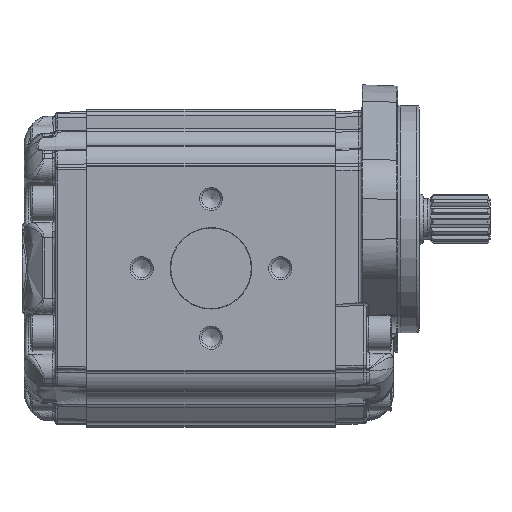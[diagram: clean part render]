
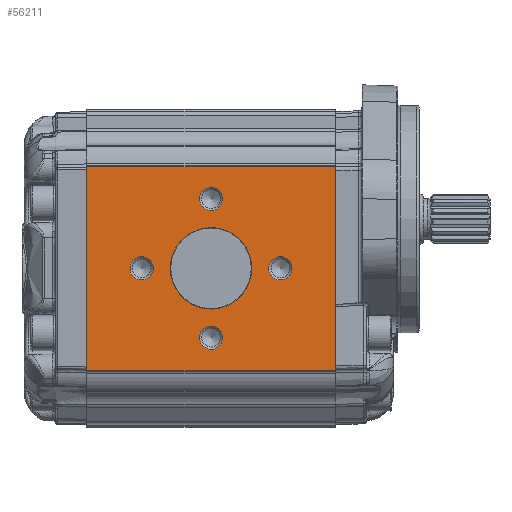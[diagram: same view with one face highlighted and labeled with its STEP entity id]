
A CAD part, left-side view. The second image highlights one B-rep face of the part: STEP entity #56211.
In plain terms, the highlighted planar face has unit normal (-1, 0, 0).
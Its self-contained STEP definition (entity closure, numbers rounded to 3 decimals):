
#6450=LINE('',#106740,#8084);
#6461=LINE('',#106824,#8095);
#6507=LINE('',#106990,#8141);
#6508=LINE('',#106991,#8142);
#8084=VECTOR('',#62822,1000.);
#8095=VECTOR('',#62897,1000.);
#8141=VECTOR('',#63075,1000.);
#8142=VECTOR('',#63076,1000.);
#14111=ORIENTED_EDGE('',*,*,#23730,.T.);
#14112=ORIENTED_EDGE('',*,*,#23731,.T.);
#14113=ORIENTED_EDGE('',*,*,#23732,.T.);
#14114=ORIENTED_EDGE('',*,*,#23733,.T.);
#14115=ORIENTED_EDGE('',*,*,#23734,.T.);
#14116=ORIENTED_EDGE('',*,*,#23605,.F.);
#14117=ORIENTED_EDGE('',*,*,#23735,.T.);
#14118=ORIENTED_EDGE('',*,*,#23647,.F.);
#14119=ORIENTED_EDGE('',*,*,#23736,.T.);
#23605=EDGE_CURVE('',#28740,#28741,#6450,.T.);
#23647=EDGE_CURVE('',#28782,#28783,#6461,.T.);
#23730=EDGE_CURVE('',#28831,#28831,#31622,.F.);
#23731=EDGE_CURVE('',#28832,#28832,#31623,.F.);
#23732=EDGE_CURVE('',#28833,#28833,#31624,.F.);
#23733=EDGE_CURVE('',#28834,#28834,#31625,.F.);
#23734=EDGE_CURVE('',#28835,#28835,#31626,.F.);
#23735=EDGE_CURVE('',#28740,#28783,#6507,.F.);
#23736=EDGE_CURVE('',#28782,#28741,#6508,.F.);
#28740=VERTEX_POINT('',#106739);
#28741=VERTEX_POINT('',#106741);
#28782=VERTEX_POINT('',#106825);
#28783=VERTEX_POINT('',#106826);
#28831=VERTEX_POINT('',#106981);
#28832=VERTEX_POINT('',#106983);
#28833=VERTEX_POINT('',#106985);
#28834=VERTEX_POINT('',#106987);
#28835=VERTEX_POINT('',#106989);
#31622=CIRCLE('',#58885,5.188);
#31623=CIRCLE('',#58886,5.188);
#31624=CIRCLE('',#58887,5.188);
#31625=CIRCLE('',#58888,5.188);
#31626=CIRCLE('',#58889,18.2);
#32952=EDGE_LOOP('',(#14111));
#32953=EDGE_LOOP('',(#14112));
#32954=EDGE_LOOP('',(#14113));
#32955=EDGE_LOOP('',(#14114));
#32956=EDGE_LOOP('',(#14115));
#32957=EDGE_LOOP('',(#14116,#14117,#14118,#14119));
#35672=FACE_BOUND('',#32952,.T.);
#35673=FACE_BOUND('',#32953,.T.);
#35674=FACE_BOUND('',#32954,.T.);
#35675=FACE_BOUND('',#32955,.T.);
#35676=FACE_BOUND('',#32956,.T.);
#35677=FACE_BOUND('',#32957,.T.);
#37486=PLANE('',#58884);
#56211=ADVANCED_FACE('',(#35672,#35673,#35674,#35675,#35676,#35677),#37486,
 .T.);
#58884=AXIS2_PLACEMENT_3D('',#106979,#63063,#63064);
#58885=AXIS2_PLACEMENT_3D('',#106980,#63065,#63066);
#58886=AXIS2_PLACEMENT_3D('',#106982,#63067,#63068);
#58887=AXIS2_PLACEMENT_3D('',#106984,#63069,#63070);
#58888=AXIS2_PLACEMENT_3D('',#106986,#63071,#63072);
#58889=AXIS2_PLACEMENT_3D('',#106988,#63073,#63074);
#62822=DIRECTION('',(0.,0.,1.));
#62897=DIRECTION('',(0.,0.,-1.));
#63063=DIRECTION('',(-1.,0.,0.));
#63064=DIRECTION('',(0.,0.,-1.));
#63065=DIRECTION('',(-1.,0.,0.));
#63066=DIRECTION('',(0.,0.,-1.));
#63067=DIRECTION('',(-1.,0.,0.));
#63068=DIRECTION('',(0.,0.,-1.));
#63069=DIRECTION('',(-1.,0.,0.));
#63070=DIRECTION('',(0.,0.,-1.));
#63071=DIRECTION('',(-1.,0.,0.));
#63072=DIRECTION('',(0.,0.,-1.));
#63073=DIRECTION('',(-1.,0.,0.));
#63074=DIRECTION('',(0.,0.,-1.));
#63075=DIRECTION('',(0.,1.,0.));
#63076=DIRECTION('',(0.,-1.,0.));
#106739=CARTESIAN_POINT('',(-57.5,111.,-45.5));
#106740=CARTESIAN_POINT('',(-57.5,111.,-91.388));
#106741=CARTESIAN_POINT('',(-57.5,111.,45.5));
#106824=CARTESIAN_POINT('',(-57.5,0.,44.978));
#106825=CARTESIAN_POINT('',(-57.5,0.,45.5));
#106826=CARTESIAN_POINT('',(-57.5,0.,-45.5));
#106979=CARTESIAN_POINT('',(-57.5,-127.87,-91.388));
#106980=CARTESIAN_POINT('',(-57.5,55.5,-31.));
#106981=CARTESIAN_POINT('',(-57.5,55.5,-36.188));
#106982=CARTESIAN_POINT('',(-57.5,24.5,0.));
#106983=CARTESIAN_POINT('',(-57.5,24.5,-5.188));
#106984=CARTESIAN_POINT('',(-57.5,55.5,31.));
#106985=CARTESIAN_POINT('',(-57.5,55.5,25.812));
#106986=CARTESIAN_POINT('',(-57.5,86.5,0.));
#106987=CARTESIAN_POINT('',(-57.5,86.5,-5.188));
#106988=CARTESIAN_POINT('',(-57.5,55.5,0.));
#106989=CARTESIAN_POINT('',(-57.5,55.5,-18.2));
#106990=CARTESIAN_POINT('',(-57.5,-127.87,-45.5));
#106991=CARTESIAN_POINT('',(-57.5,-127.87,45.5));
